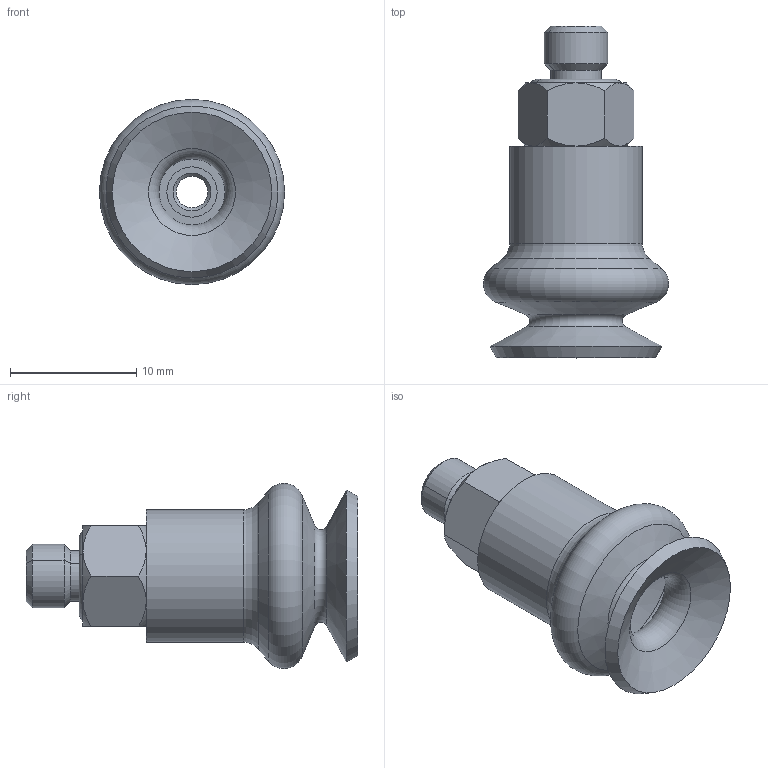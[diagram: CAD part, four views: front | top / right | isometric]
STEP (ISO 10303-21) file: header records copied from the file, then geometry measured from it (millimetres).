
FILE_DESCRIPTION (( 'STEP AP214' ), '1' );
FILE_NAME ('SB14-1032M.STEP', '2024-09-30T20:34:56', ( '' ), ( '' ), 'SwSTEP 2.0', 'SolidWorks 2018', '' );
FILE_SCHEMA (( 'AUTOMOTIVE_DESIGN' ));
Length unit declared in the file: inch
Products named in the file (4): SB14-5M.STEP; SB14.STEP; 130.013.STEP; SB14-1032M
Assembly tree (3 placements, depth 3):
  SB14-1032M
    SB14-5M.STEP
      SB14.STEP
      130.013.STEP
Bounding box: 14.64 x 26.24 x 14.64 mm (x, y, z)
Volume: 1560 mm3; surface area: 1991.7 mm2
Topology: 3 solids, 3 shells, 71 faces, 144 edges, 82 vertices
Faces by surface type: cone 31, plane 15, torus 13, cylinder 12
Full cylindrical faces by diameter (mm): 3.975 x1, 10.462 x1
Entity records: 2305 total; most frequent: CARTESIAN_POINT 698, DIRECTION 340, ORIENTED_EDGE 260, AXIS2_PLACEMENT_3D 156, EDGE_CURVE 130, EDGE_LOOP 94, VERTEX_POINT 82, FACE_OUTER_BOUND 78
